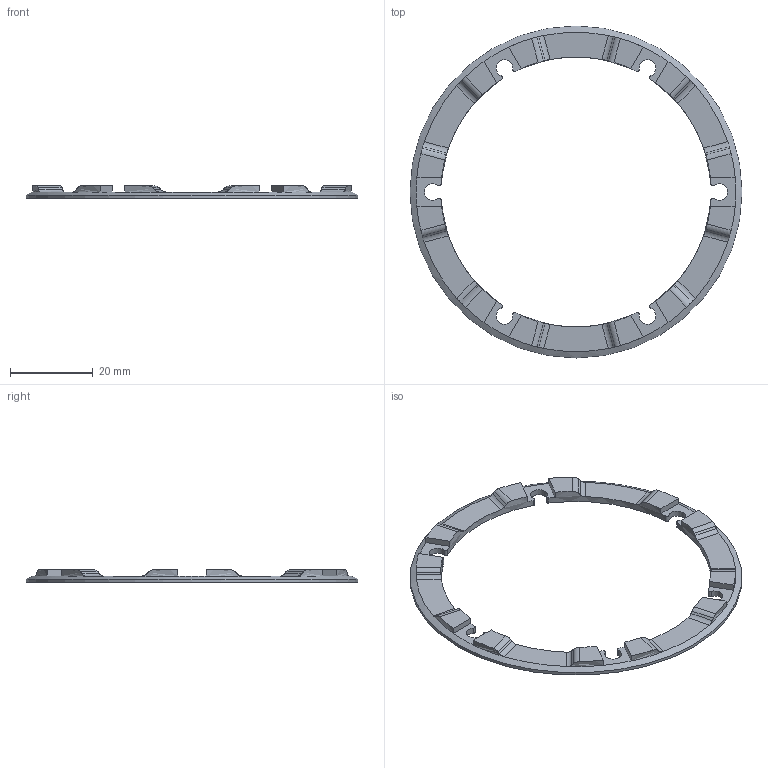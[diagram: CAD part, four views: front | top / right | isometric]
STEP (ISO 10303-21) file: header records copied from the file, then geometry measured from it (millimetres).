
FILE_DESCRIPTION(/* description */ ('CAx-IF Rec.Pracs.---Representation and Presentation of Product Manufacturing Information (PMI)---4.0---2014-10-13','CAx-IF Rec.Pracs.---3D Tessellated Geometry---0.4---2014-09-14','2;1'),/* implementation_level */ '2;1');
FILE_NAME(/* name */ 'qc1_p18',/* time_stamp */ '2026-07-26T00:57:30+03:00',/* author */ (''),/* organization */ (''),/* preprocessor_version */ 'ST-DEVELOPER v19.4',/* originating_system */ 'SIEMENS PLM Software NX2306.1700',/* authorisation */ $);
FILE_SCHEMA (('AP242_MANAGED_MODEL_BASED_3D_ENGINEERING_MIM_LF { 1 0 10303 442 3 1 4 }'));
Length unit declared in the file: millimetre
Products named in the file (1): qc1_p18
Bounding box: 80 x 80 x 3 mm (x, y, z)
Volume: 2994.8 mm3; surface area: 4218.7 mm2
Topology: 1 solids, 1 shells, 111 faces, 305 edges, 195 vertices
Faces by surface type: cylinder 61, plane 49, cone 1
Full cylindrical faces by diameter (mm): 80 x1
Entity records: 3608 total; most frequent: CARTESIAN_POINT 752, DIRECTION 612, ORIENTED_EDGE 604, EDGE_CURVE 302, AXIS2_PLACEMENT_3D 246, VERTEX_POINT 194, LINE 120, VECTOR 120
